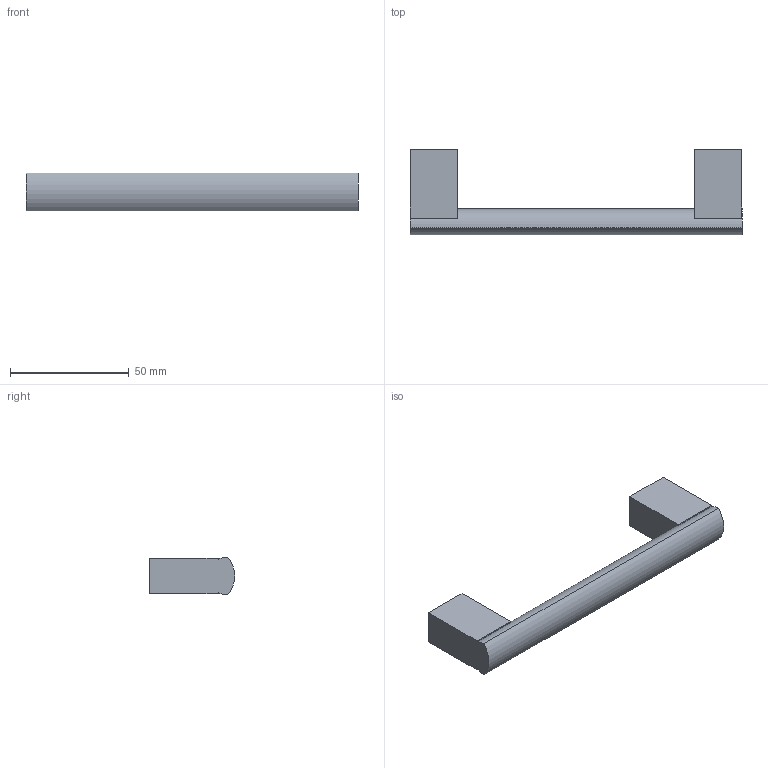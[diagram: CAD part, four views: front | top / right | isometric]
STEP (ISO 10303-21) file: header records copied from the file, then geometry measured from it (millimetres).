
FILE_DESCRIPTION( ( 'STEP AP214' ), '1' );
FILE_NAME( 'D:/Shahbaz D&D/Task/Check and correct handles with 3 drill sockets/Clivia/115355.stp', '2023-02-20T10:33:40', ( '' ), ( '' ), ' ', 'PARTsolutions', ' ' );
FILE_SCHEMA( ( 'AUTOMOTIVE_DESIGN { 1 0 10303 214 1 1 1 1 }' ) );
Length unit declared in the file: millimetre
Products named in the file (1): _115355
Bounding box: 140 x 35.96 x 16 mm (x, y, z)
Volume: 34304.6 mm3; surface area: 10309.2 mm2
Topology: 1 solids, 1 shells, 21 faces, 48 edges, 32 vertices
Faces by surface type: plane 17, cylinder 4
Full cylindrical faces by diameter (mm): 4 x2
Entity records: 768 total; most frequent: DIRECTION 102, CARTESIAN_POINT 100, ORIENTED_EDGE 92, EDGE_CURVE 46, AXIS2_PLACEMENT_3D 34, LINE 34, VECTOR 34, VERTEX_POINT 32
